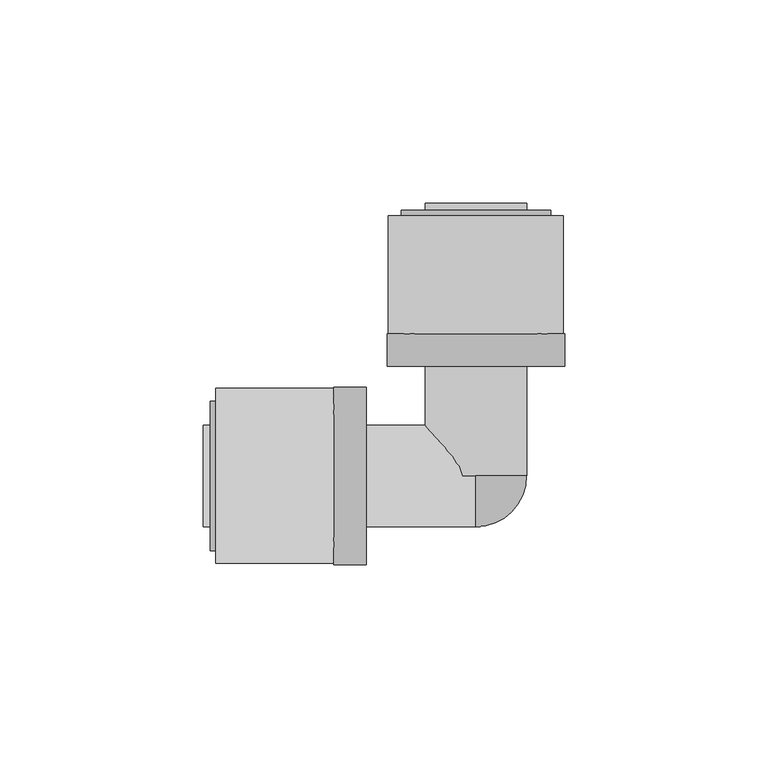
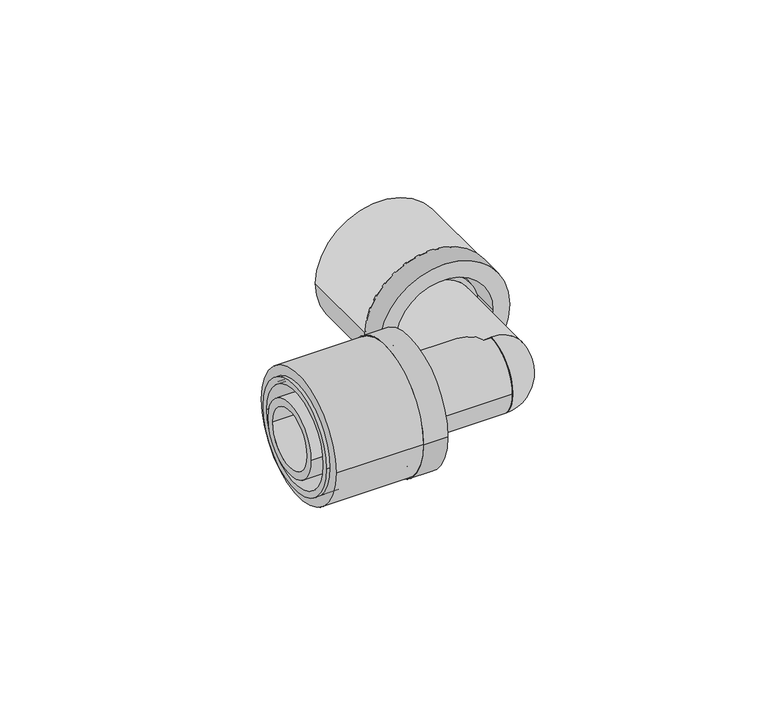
"""IFC4 building model written with IfcOpenShell, lengths in millimetres: pipe fitting geometry, FASTLOC_Corner EX+ : FSL C EX+ AT."""

from ifc_helpers import new_model, si_unit, point, frame, origin, origin_2d, place, context, project, spatial, polyline, circle_curve, ellipse_curve, trimmed, segment, composite_curve, outline, extrude, source, transform, mapped, element, save
from ifc_brep_helpers import plane_surface, cylinder_surface, revolved_surface, advanced_brep


def pipe_fitting_24cae873(model_context):
    return source(origin(), model_context, "Body", "SolidModel", [
        extrude(outline(composite_curve([segment(trimmed(circle_curve(origin_2d(), 21.5), [point((0.0, 21.5))], [point((0.0, -21.5))], False, "CARTESIAN"), True, "CONTINUOUS"), segment(trimmed(circle_curve(origin_2d(), 21.5), [point((0.0, -21.5))], [point((0.0, 21.5))], False, "CARTESIAN"), True, "CONTINUOUS")], self_intersect=False), holes=[composite_curve([segment(trimmed(circle_curve(origin_2d(), 16.85), [point((0.0, 16.85))], [point((0.0, -16.85))], True, "CARTESIAN"), True, "CONTINUOUS"), segment(trimmed(circle_curve(origin_2d(), 16.85), [point((0.0, -16.85))], [point((0.0, 16.85))], True, "CARTESIAN"), True, "CONTINUOUS")], self_intersect=False)]), frame((0.0, 35.0, 0.0), z_axis=(0.0, 1.0, 0.0), x_axis=(0.0, 0.0, 1.0)), (0.0, 0.0, 1.0), 29.0),
        advanced_brep(
        [(-21.8, 35.0, 0.0), (21.8, 35.0, 0.0), (21.8, 27.0, 0.0), (-21.8, 27.0, 0.0), (-18.35, 65.3, 0.0), (18.35, 65.3, 0.0), (18.35, 35.0, 0.0), (-18.35, 35.0, 0.0), (-16.2, 27.0, 0.0), (16.2, 27.0, 0.0), (16.2, 65.3, 0.0), (-16.2, 65.3, 0.0)],
        [
            (0, 1, circle_curve(frame((0.0, 35.0, 0.0), z_axis=(0.0, -1.0, 0.0), x_axis=(1.0, 0.0, 0.0)), 21.8)),
            (1, 2),
            (2, 3, circle_curve(frame((0.0, 27.0, 0.0), z_axis=(0.0, 1.0, 0.0), x_axis=(1.0, 0.0, 0.0)), 21.8)),
            (3, 0),
            (4, 5, circle_curve(frame((0.0, 65.3, 0.0), z_axis=(0.0, -1.0, 0.0), x_axis=(1.0, 0.0, 0.0)), 18.35)),
            (5, 6),
            (6, 7, circle_curve(frame((0.0, 35.0, 0.0), z_axis=(0.0, 1.0, 0.0), x_axis=(1.0, 0.0, 0.0)), 18.35)),
            (7, 4),
            (8, 9, circle_curve(frame((0.0, 27.0, 0.0), z_axis=(0.0, -1.0, 0.0), x_axis=(1.0, 0.0, 0.0)), 16.2)),
            (9, 10),
            (10, 11, circle_curve(frame((0.0, 65.3, 0.0), z_axis=(0.0, 1.0, 0.0), x_axis=(1.0, 0.0, 0.0)), 16.2)),
            (11, 8),
            (1, 0, circle_curve(frame((0.0, 35.0, 0.0), z_axis=(0.0, -1.0, 0.0), x_axis=(-1.0, 0.0, 0.0)), 21.8)),
            (3, 2, circle_curve(frame((0.0, 27.0, 0.0), z_axis=(0.0, 1.0, 0.0), x_axis=(-1.0, 0.0, 0.0)), 21.8)),
            (6, 7, circle_curve(frame((0.0, 35.0, 0.0), z_axis=(0.0, -1.0, 0.0), x_axis=(-1.0, 0.0, 0.0)), 18.35)),
            (5, 4, circle_curve(frame((0.0, 65.3, 0.0), z_axis=(0.0, -1.0, 0.0), x_axis=(-1.0, 0.0, 0.0)), 18.35)),
            (10, 11, circle_curve(frame((0.0, 65.3, 0.0), z_axis=(0.0, -1.0, 0.0), x_axis=(-1.0, 0.0, 0.0)), 16.2)),
            (9, 8, circle_curve(frame((0.0, 27.0, 0.0), z_axis=(0.0, -1.0, 0.0), x_axis=(-1.0, 0.0, 0.0)), 16.2)),
        ],
        [
            cylinder_surface(frame((0.0, 27.0, 0.0), z_axis=(0.0, 1.0, 0.0), x_axis=(1.0, 0.0, 0.0)), 21.8),
            cylinder_surface(frame((0.0, 27.0, 0.0), z_axis=(0.0, 1.0, 0.0), x_axis=(1.0, 0.0, 0.0)), 18.35),
            revolved_surface(polyline([(16.2, 65.3, 0.0), (16.2, 27.0, 0.0)]), (0.0, 27.0, 0.0), (0.0, 1.0, 0.0)),
            cylinder_surface(frame((0.0, 27.0, 0.0), z_axis=(0.0, 1.0, 0.0), x_axis=(-1.0, 0.0, 0.0)), 21.8),
            plane_surface(frame((0.0, 35.0, 0.0), z_axis=(0.0, 1.0, 0.0), x_axis=(-1.0, 0.0, 0.0))),
            cylinder_surface(frame((0.0, 27.0, 0.0), z_axis=(0.0, 1.0, 0.0), x_axis=(-1.0, 0.0, 0.0)), 18.35),
            plane_surface(frame((0.0, 65.3, 0.0), z_axis=(0.0, 1.0, 0.0), x_axis=(-1.0, 0.0, 0.0))),
            revolved_surface(polyline([(-16.2, 65.3, 0.0), (-16.2, 27.0, 0.0)]), (0.0, 27.0, 0.0), (0.0, 1.0, 0.0)),
            plane_surface(frame((0.0, 27.0, 0.0), z_axis=(0.0, -1.0, 0.0), x_axis=(-1.0, 0.0, 0.0))),
        ],
        [
            (0, [[1, 2, 3, 4]]),
            (1, [[5, 6, 7, 8]]),
            (2, [[9, 10, 11, 12]]),
            (3, [[13, -4, 14, -2]]),
            (4, [[-13, -1], [15, -7]]),
            (5, [[16, -8, -15, -6]]),
            (6, [[-16, -5], [17, -11]]),
            (7, [[18, -12, -17, -10]]),
            (8, [[-14, -3], [-18, -9]]),
        ],
    ),
        extrude(outline(composite_curve([segment(trimmed(circle_curve(origin_2d(), 21.5), [point((21.5, 0.0))], [point((-21.5, 0.0))], False, "CARTESIAN"), True, "CONTINUOUS"), segment(trimmed(circle_curve(origin_2d(), 21.5), [point((-21.5, 0.0))], [point((21.5, 0.0))], False, "CARTESIAN"), True, "CONTINUOUS")], self_intersect=False), holes=[composite_curve([segment(trimmed(circle_curve(origin_2d(), 16.85), [point((16.85, 0.0))], [point((-16.85, 0.0))], True, "CARTESIAN"), True, "CONTINUOUS"), segment(trimmed(circle_curve(origin_2d(), 16.85), [point((-16.85, 0.0))], [point((16.85, 0.0))], True, "CARTESIAN"), True, "CONTINUOUS")], self_intersect=False)]), frame((-64.0, 0.0, 0.0), z_axis=(1.0, 0.0, 0.0), x_axis=(0.0, 1.0, 0.0)), (0.0, 0.0, 1.0), 29.0),
        advanced_brep(
        [(-35.0, -21.8, 0.0), (-35.0, 21.8, 0.0), (-27.0, 21.8, 0.0), (-27.0, -21.8, 0.0), (-65.3, -18.35, 0.0), (-65.3, 18.35, 0.0), (-35.0, 18.35, 0.0), (-35.0, -18.35, 0.0), (-27.0, -16.2, 0.0), (-27.0, 16.2, 0.0), (-65.3, 16.2, 0.0), (-65.3, -16.2, 0.0)],
        [
            (0, 1, circle_curve(frame((-35.0, 0.0, 0.0), z_axis=(1.0, 0.0, 0.0), x_axis=(0.0, 1.0, 0.0)), 21.8)),
            (1, 2),
            (2, 3, circle_curve(frame((-27.0, 0.0, 0.0), z_axis=(-1.0, 0.0, 0.0), x_axis=(0.0, 1.0, 0.0)), 21.8)),
            (3, 0),
            (4, 5, circle_curve(frame((-65.3, 0.0, 0.0), z_axis=(1.0, 0.0, 0.0), x_axis=(0.0, 1.0, 0.0)), 18.35)),
            (5, 6),
            (6, 7, circle_curve(frame((-35.0, 0.0, 0.0), z_axis=(-1.0, 0.0, 0.0), x_axis=(0.0, 1.0, 0.0)), 18.35)),
            (7, 4),
            (8, 9, circle_curve(frame((-27.0, 0.0, 0.0), z_axis=(1.0, 0.0, 0.0), x_axis=(0.0, 1.0, 0.0)), 16.2)),
            (9, 10),
            (10, 11, circle_curve(frame((-65.3, 0.0, 0.0), z_axis=(-1.0, 0.0, 0.0), x_axis=(0.0, 1.0, 0.0)), 16.2)),
            (11, 8),
            (1, 0, circle_curve(frame((-35.0, 0.0, 0.0), z_axis=(1.0, 0.0, 0.0), x_axis=(0.0, -1.0, 0.0)), 21.8)),
            (3, 2, circle_curve(frame((-27.0, 0.0, 0.0), z_axis=(-1.0, 0.0, 0.0), x_axis=(0.0, -1.0, 0.0)), 21.8)),
            (6, 7, circle_curve(frame((-35.0, 0.0, 0.0), z_axis=(1.0, 0.0, 0.0), x_axis=(0.0, -1.0, 0.0)), 18.35)),
            (5, 4, circle_curve(frame((-65.3, 0.0, 0.0), z_axis=(1.0, 0.0, 0.0), x_axis=(0.0, -1.0, 0.0)), 18.35)),
            (10, 11, circle_curve(frame((-65.3, 0.0, 0.0), z_axis=(1.0, 0.0, 0.0), x_axis=(0.0, -1.0, 0.0)), 16.2)),
            (9, 8, circle_curve(frame((-27.0, 0.0, 0.0), z_axis=(1.0, 0.0, 0.0), x_axis=(0.0, -1.0, 0.0)), 16.2)),
        ],
        [
            cylinder_surface(frame((-27.0, 0.0, 0.0), z_axis=(-1.0, 0.0, 0.0), x_axis=(0.0, 1.0, 0.0)), 21.8),
            cylinder_surface(frame((-27.0, 0.0, 0.0), z_axis=(-1.0, 0.0, 0.0), x_axis=(0.0, 1.0, 0.0)), 18.35),
            revolved_surface(polyline([(-65.3, 16.2, 0.0), (-27.0, 16.2, 0.0)]), (-27.0, 0.0, 0.0), (-1.0, 0.0, 0.0)),
            cylinder_surface(frame((-27.0, 0.0, 0.0), z_axis=(-1.0, 0.0, 0.0), x_axis=(0.0, -1.0, 0.0)), 21.8),
            plane_surface(frame((-35.0, 0.0, 0.0), z_axis=(-1.0, 0.0, 0.0), x_axis=(0.0, -1.0, 0.0))),
            cylinder_surface(frame((-27.0, 0.0, 0.0), z_axis=(-1.0, 0.0, 0.0), x_axis=(0.0, -1.0, 0.0)), 18.35),
            plane_surface(frame((-65.3, 0.0, 0.0), z_axis=(-1.0, 0.0, 0.0), x_axis=(0.0, -1.0, 0.0))),
            revolved_surface(polyline([(-65.3, -16.2, 0.0), (-27.0, -16.2, 0.0)]), (-27.0, 0.0, 0.0), (-1.0, 0.0, 0.0)),
            plane_surface(frame((-27.0, 0.0, 0.0), z_axis=(1.0, 0.0, 0.0), x_axis=(0.0, -1.0, 0.0))),
        ],
        [
            (0, [[1, 2, 3, 4]]),
            (1, [[5, 6, 7, 8]]),
            (2, [[9, 10, 11, 12]]),
            (3, [[13, -4, 14, -2]]),
            (4, [[-13, -1], [15, -7]]),
            (5, [[16, -8, -15, -6]]),
            (6, [[-16, -5], [17, -11]]),
            (7, [[18, -12, -17, -10]]),
            (8, [[-14, -3], [-18, -9]]),
        ],
    ),
        advanced_brep(
        [(0.0, 0.0, 12.5), (0.0, 0.0, 0.0), (0.0, -12.5, 0.0), (0.0, 0.0, -12.5)],
        [
            (0, 1),
            (1, 2),
            (2, 0, circle_curve(frame((0.0, 0.0, 0.0), z_axis=(-1.0, 0.0, 0.0), x_axis=(0.0, 0.0, 1.0)), 12.5)),
            (3, 2, circle_curve(frame((0.0, 0.0, 0.0), z_axis=(-1.0, 0.0, 0.0), x_axis=(0.0, 0.0, -1.0)), 12.5)),
            (1, 3),
            (0, 3, circle_curve(frame((0.0, 0.0, 0.0), z_axis=(0.0, 1.0, 0.0), x_axis=(0.0, 0.0, 1.0)), 12.5)),
        ],
        [
            plane_surface(frame((0.0, 0.0, 0.0), z_axis=(-1.0, 0.0, 0.0), x_axis=(0.0, 0.0, 1.0))),
            plane_surface(frame((0.0, 0.0, 0.0), z_axis=(-1.0, 0.0, 0.0), x_axis=(0.0, 0.0, -1.0))),
            plane_surface(frame((0.0, 0.0, 0.0), z_axis=(0.0, 1.0, 0.0), x_axis=(0.0, 0.0, 1.0))),
            revolved_surface(trimmed(ellipse_curve(frame((0.0, 0.0, 0.0), z_axis=(-1.0, 0.0, 0.0), x_axis=(0.0, 0.0, 1.0)), 12.5, 12.5), [point((0.0, -12.5, 0.0))], [point((0.0, 0.0, 12.5))], True, "CARTESIAN"), (0.0, 0.0, 0.0), (0.0, 1.0, 0.0)),
        ],
        [
            (0, [[1, 2, 3]]),
            (1, [[4, -2, 5]]),
            (2, [[-1, 6, -5]]),
            (3, [[-6, -3, -4]]),
        ],
    ),
        advanced_brep(
        [(9.85, 67.0, 0.0), (-9.85, 67.0, 0.0), (-9.85, 0.0, 0.0), (9.85, 0.0, 0.0), (12.5, 35.0, 0.0), (-12.5, 35.0, 0.0), (-12.5, 67.0, 0.0), (12.5, 67.0, 0.0), (14.1, 32.0, 0.0), (-14.1, 32.0, 0.0), (-14.1, 35.0, 0.0), (14.1, 35.0, 0.0), (12.5, 0.0, 0.0), (-12.5, 0.0, 0.0), (-12.5, 32.0, 0.0), (12.5, 32.0, 0.0)],
        [
            (0, 1, circle_curve(frame((0.0, 67.0, 0.0), z_axis=(0.0, 1.0, 0.0), x_axis=(-1.0, 0.0, 0.0)), 9.85)),
            (1, 2),
            (2, 3, circle_curve(frame((0.0, 0.0, 0.0), z_axis=(0.0, -1.0, 0.0), x_axis=(-1.0, 0.0, 0.0)), 9.85)),
            (3, 0),
            (4, 5, circle_curve(frame((0.0, 35.0, 0.0), z_axis=(0.0, 1.0, 0.0), x_axis=(-1.0, 0.0, 0.0)), 12.5)),
            (5, 6),
            (6, 7, circle_curve(frame((0.0, 67.0, 0.0), z_axis=(0.0, -1.0, 0.0), x_axis=(-1.0, 0.0, 0.0)), 12.5)),
            (7, 4),
            (8, 9, circle_curve(frame((0.0, 32.0, 0.0), z_axis=(0.0, 1.0, 0.0), x_axis=(-1.0, 0.0, 0.0)), 14.1)),
            (9, 10),
            (10, 11, circle_curve(frame((0.0, 35.0, 0.0), z_axis=(0.0, -1.0, 0.0), x_axis=(-1.0, 0.0, 0.0)), 14.1)),
            (11, 8),
            (12, 13, circle_curve(frame((0.0, 0.0, 0.0), z_axis=(0.0, 1.0, 0.0), x_axis=(-1.0, 0.0, 0.0)), 12.5)),
            (13, 14),
            (14, 15, circle_curve(frame((0.0, 32.0, 0.0), z_axis=(0.0, -1.0, 0.0), x_axis=(-1.0, 0.0, 0.0)), 12.5)),
            (15, 12),
            (1, 0, circle_curve(frame((0.0, 67.0, 0.0), z_axis=(0.0, 1.0, 0.0), x_axis=(1.0, 0.0, 0.0)), 9.85)),
            (3, 2, circle_curve(frame((0.0, 0.0, 0.0), z_axis=(0.0, -1.0, 0.0), x_axis=(1.0, 0.0, 0.0)), 9.85)),
            (6, 7, circle_curve(frame((0.0, 67.0, 0.0), z_axis=(0.0, 1.0, 0.0), x_axis=(1.0, 0.0, 0.0)), 12.5)),
            (5, 4, circle_curve(frame((0.0, 35.0, 0.0), z_axis=(0.0, 1.0, 0.0), x_axis=(1.0, 0.0, 0.0)), 12.5)),
            (10, 11, circle_curve(frame((0.0, 35.0, 0.0), z_axis=(0.0, 1.0, 0.0), x_axis=(1.0, 0.0, 0.0)), 14.1)),
            (9, 8, circle_curve(frame((0.0, 32.0, 0.0), z_axis=(0.0, 1.0, 0.0), x_axis=(1.0, 0.0, 0.0)), 14.1)),
            (14, 15, circle_curve(frame((0.0, 32.0, 0.0), z_axis=(0.0, 1.0, 0.0), x_axis=(1.0, 0.0, 0.0)), 12.5)),
            (13, 12, circle_curve(frame((0.0, 0.0, 0.0), z_axis=(0.0, 1.0, 0.0), x_axis=(1.0, 0.0, 0.0)), 12.5)),
        ],
        [
            revolved_surface(polyline([(-9.85, 0.0, 0.0), (-9.85, 67.0, 0.0)]), (0.0, 0.0, 0.0), (0.0, -1.0, 0.0)),
            cylinder_surface(frame((0.0, 0.0, 0.0), z_axis=(0.0, -1.0, 0.0), x_axis=(-1.0, 0.0, 0.0)), 12.5),
            cylinder_surface(frame((0.0, 0.0, 0.0), z_axis=(0.0, -1.0, 0.0), x_axis=(-1.0, 0.0, 0.0)), 14.1),
            revolved_surface(polyline([(9.85, 0.0, 0.0), (9.85, 67.0, 0.0)]), (0.0, 0.0, 0.0), (0.0, -1.0, 0.0)),
            plane_surface(frame((0.0, 67.0, 0.0), z_axis=(0.0, 1.0, 0.0), x_axis=(1.0, 0.0, 0.0))),
            cylinder_surface(frame((0.0, 0.0, 0.0), z_axis=(0.0, -1.0, 0.0), x_axis=(1.0, 0.0, 0.0)), 12.5),
            plane_surface(frame((0.0, 35.0, 0.0), z_axis=(0.0, 1.0, 0.0), x_axis=(1.0, 0.0, 0.0))),
            cylinder_surface(frame((0.0, 0.0, 0.0), z_axis=(0.0, -1.0, 0.0), x_axis=(1.0, 0.0, 0.0)), 14.1),
            plane_surface(frame((0.0, 32.0, 0.0), z_axis=(0.0, -1.0, 0.0), x_axis=(1.0, 0.0, 0.0))),
            plane_surface(frame((0.0, 0.0, 0.0), z_axis=(0.0, -1.0, 0.0), x_axis=(1.0, 0.0, 0.0))),
        ],
        [
            (0, [[1, 2, 3, 4]]),
            (1, [[5, 6, 7, 8]]),
            (2, [[9, 10, 11, 12]]),
            (1, [[13, 14, 15, 16]]),
            (3, [[17, -4, 18, -2]]),
            (4, [[19, -7], [-17, -1]]),
            (5, [[20, -8, -19, -6]]),
            (6, [[21, -11], [-20, -5]]),
            (7, [[22, -12, -21, -10]]),
            (8, [[-22, -9], [23, -15]]),
            (5, [[24, -16, -23, -14]]),
            (9, [[-24, -13], [-18, -3]]),
        ],
    ),
        advanced_brep(
        [(0.0, 12.5, 0.0), (0.0, -12.5, 0.0), (-32.0, -12.5, 0.0), (-32.0, 12.5, 0.0), (-32.0, 14.1, 0.0), (-32.0, -14.1, 0.0), (-35.0, -14.1, 0.0), (-35.0, 14.1, 0.0), (-35.0, 12.5, 0.0), (-35.0, -12.5, 0.0), (-67.0, -12.5, 0.0), (-67.0, 12.5, 0.0), (-67.0, 9.85, 0.0), (-67.0, -9.85, 0.0), (0.0, -9.85, 0.0), (0.0, 9.85, 0.0)],
        [
            (0, 1, circle_curve(frame((0.0, 0.0, 0.0), z_axis=(-1.0, 0.0, 0.0), x_axis=(0.0, -1.0, 0.0)), 12.5)),
            (1, 2),
            (2, 3, circle_curve(frame((-32.0, 0.0, 0.0), z_axis=(1.0, 0.0, 0.0), x_axis=(0.0, -1.0, 0.0)), 12.5)),
            (3, 0),
            (4, 5, circle_curve(frame((-32.0, 0.0, 0.0), z_axis=(-1.0, 0.0, 0.0), x_axis=(0.0, -1.0, 0.0)), 14.1)),
            (5, 6),
            (6, 7, circle_curve(frame((-35.0, 0.0, 0.0), z_axis=(1.0, 0.0, 0.0), x_axis=(0.0, -1.0, 0.0)), 14.1)),
            (7, 4),
            (8, 9, circle_curve(frame((-35.0, 0.0, 0.0), z_axis=(-1.0, 0.0, 0.0), x_axis=(0.0, -1.0, 0.0)), 12.5)),
            (9, 10),
            (10, 11, circle_curve(frame((-67.0, 0.0, 0.0), z_axis=(1.0, 0.0, 0.0), x_axis=(0.0, -1.0, 0.0)), 12.5)),
            (11, 8),
            (12, 13, circle_curve(frame((-67.0, 0.0, 0.0), z_axis=(-1.0, 0.0, 0.0), x_axis=(0.0, -1.0, 0.0)), 9.85)),
            (13, 14),
            (14, 15, circle_curve(frame((0.0, 0.0, 0.0), z_axis=(1.0, 0.0, 0.0), x_axis=(0.0, -1.0, 0.0)), 9.85)),
            (15, 12),
            (0, 1, circle_curve(frame((0.0, 0.0, 0.0), z_axis=(1.0, 0.0, 0.0), x_axis=(0.0, 1.0, 0.0)), 12.5)),
            (14, 15, circle_curve(frame((0.0, 0.0, 0.0), z_axis=(-1.0, 0.0, 0.0), x_axis=(0.0, 1.0, 0.0)), 9.85)),
            (3, 2, circle_curve(frame((-32.0, 0.0, 0.0), z_axis=(1.0, 0.0, 0.0), x_axis=(0.0, 1.0, 0.0)), 12.5)),
            (4, 5, circle_curve(frame((-32.0, 0.0, 0.0), z_axis=(1.0, 0.0, 0.0), x_axis=(0.0, 1.0, 0.0)), 14.1)),
            (7, 6, circle_curve(frame((-35.0, 0.0, 0.0), z_axis=(1.0, 0.0, 0.0), x_axis=(0.0, 1.0, 0.0)), 14.1)),
            (8, 9, circle_curve(frame((-35.0, 0.0, 0.0), z_axis=(1.0, 0.0, 0.0), x_axis=(0.0, 1.0, 0.0)), 12.5)),
            (11, 10, circle_curve(frame((-67.0, 0.0, 0.0), z_axis=(1.0, 0.0, 0.0), x_axis=(0.0, 1.0, 0.0)), 12.5)),
            (12, 13, circle_curve(frame((-67.0, 0.0, 0.0), z_axis=(1.0, 0.0, 0.0), x_axis=(0.0, 1.0, 0.0)), 9.85)),
        ],
        [
            cylinder_surface(frame((0.0, 0.0, 0.0), z_axis=(1.0, 0.0, 0.0), x_axis=(0.0, -1.0, 0.0)), 12.5),
            cylinder_surface(frame((0.0, 0.0, 0.0), z_axis=(1.0, 0.0, 0.0), x_axis=(0.0, -1.0, 0.0)), 14.1),
            revolved_surface(polyline([(0.0, -9.85, 0.0), (-67.0, -9.85, 0.0)]), (0.0, 0.0, 0.0), (1.0, 0.0, 0.0)),
            plane_surface(frame((0.0, 0.0, 0.0), z_axis=(1.0, 0.0, 0.0), x_axis=(0.0, 1.0, 0.0))),
            cylinder_surface(frame((0.0, 0.0, 0.0), z_axis=(1.0, 0.0, 0.0), x_axis=(0.0, 1.0, 0.0)), 12.5),
            plane_surface(frame((-32.0, 0.0, 0.0), z_axis=(1.0, 0.0, 0.0), x_axis=(0.0, 1.0, 0.0))),
            cylinder_surface(frame((0.0, 0.0, 0.0), z_axis=(1.0, 0.0, 0.0), x_axis=(0.0, 1.0, 0.0)), 14.1),
            plane_surface(frame((-35.0, 0.0, 0.0), z_axis=(-1.0, 0.0, 0.0), x_axis=(0.0, 1.0, 0.0))),
            plane_surface(frame((-67.0, 0.0, 0.0), z_axis=(-1.0, 0.0, 0.0), x_axis=(0.0, 1.0, 0.0))),
            revolved_surface(polyline([(0.0, 9.85, 0.0), (-67.0, 9.85, 0.0)]), (0.0, 0.0, 0.0), (1.0, 0.0, 0.0)),
        ],
        [
            (0, [[1, 2, 3, 4]]),
            (1, [[5, 6, 7, 8]]),
            (0, [[9, 10, 11, 12]]),
            (2, [[13, 14, 15, 16]]),
            (3, [[17, -1], [18, -15]]),
            (4, [[-17, -4, 19, -2]]),
            (5, [[20, -5], [-19, -3]]),
            (6, [[-20, -8, 21, -6]]),
            (7, [[-21, -7], [22, -9]]),
            (4, [[-22, -12, 23, -10]]),
            (8, [[-23, -11], [24, -13]]),
            (9, [[-24, -16, -18, -14]]),
        ],
    ),
    ])


if __name__ == "__main__":
    model = new_model("IFC4")
    model_context = context("Model", 3, world=origin())
    ifc_project = project(units=[si_unit("LENGTHUNIT", "METRE", prefix="MILLI")], contexts=[model_context])
    site = spatial("IfcSite", under=ifc_project)
    building = spatial("IfcBuilding", under=site)
    placement = place(None, origin())
    pipe_fitting_shape = pipe_fitting_24cae873(model_context)
    element("IfcPipeFitting", 1, ObjectType="FASTLOC_Corner EX+ : FSL C EX+ AT", at=placement, inside=building, context=model_context, shape_type="MappedRepresentation", body=[
        mapped(pipe_fitting_shape, transform((0.0, 0.0, 0.0), x_axis=(1.0, 0.0, 0.0), y_axis=(0.0, 1.0, 0.0), z_axis=(0.0, 0.0, 1.0))),
    ])
    save(model, "model.ifc")
